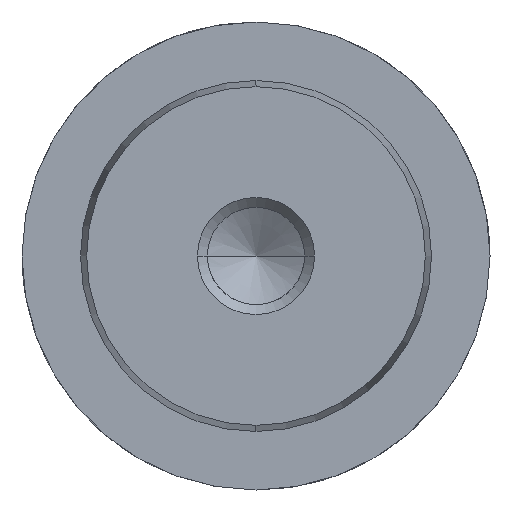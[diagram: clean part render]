
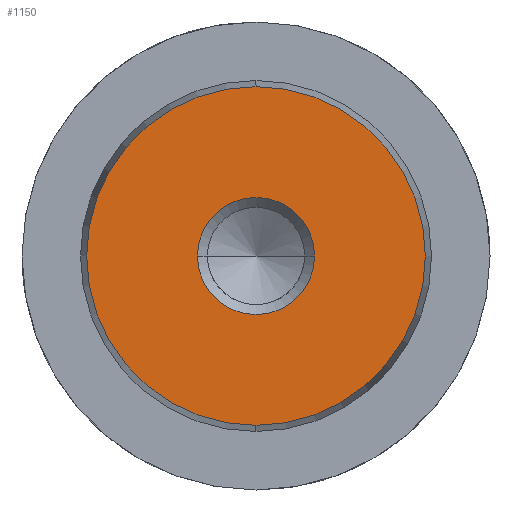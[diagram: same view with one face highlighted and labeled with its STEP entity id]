
A CAD part, left-side view. The second image highlights one B-rep face of the part: STEP entity #1150.
In plain terms, the highlighted planar face has unit normal (-1, 0, 0).
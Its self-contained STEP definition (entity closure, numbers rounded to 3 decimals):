
#1064=CARTESIAN_POINT('Vertex',(0.,0.,-11.578)) ;
#1067=CARTESIAN_POINT('Axis2P3D Location',(0.,0.,0.)) ;
#1071=CARTESIAN_POINT('Vertex',(0.,11.578,0.)) ;
#1074=CARTESIAN_POINT('Axis2P3D Location',(0.,0.,0.)) ;
#1078=CARTESIAN_POINT('Vertex',(0.,0.,11.578)) ;
#1100=CARTESIAN_POINT('Axis2P3D Location',(0.,0.,0.)) ;
#1104=CARTESIAN_POINT('Vertex',(0.,-11.578,0.)) ;
#1107=CARTESIAN_POINT('Axis2P3D Location',(0.,0.,0.)) ;
#1121=CARTESIAN_POINT('Axis2P3D Location',(0.,0.,0.)) ;
#1132=CARTESIAN_POINT('Axis2P3D Location',(0.,0.,0.)) ;
#1136=CARTESIAN_POINT('Vertex',(0.,4.,0.)) ;
#1138=CARTESIAN_POINT('Vertex',(0.,-4.,0.)) ;
#1141=CARTESIAN_POINT('Axis2P3D Location',(0.,0.,0.)) ;
#1068=DIRECTION('Axis2P3D Direction',(1.,0.,-0.)) ;
#1075=DIRECTION('Axis2P3D Direction',(1.,0.,-0.)) ;
#1101=DIRECTION('Axis2P3D Direction',(1.,0.,-0.)) ;
#1108=DIRECTION('Axis2P3D Direction',(1.,0.,-0.)) ;
#1122=DIRECTION('Axis2P3D Direction',(1.,0.,-0.)) ;
#1123=DIRECTION('Axis2P3D XDirection',(-0.,0.,-1.)) ;
#1133=DIRECTION('Axis2P3D Direction',(1.,0.,-0.)) ;
#1142=DIRECTION('Axis2P3D Direction',(1.,0.,-0.)) ;
#1069=AXIS2_PLACEMENT_3D('Circle Axis2P3D',#1067,#1068,$) ;
#1076=AXIS2_PLACEMENT_3D('Circle Axis2P3D',#1074,#1075,$) ;
#1102=AXIS2_PLACEMENT_3D('Circle Axis2P3D',#1100,#1101,$) ;
#1109=AXIS2_PLACEMENT_3D('Circle Axis2P3D',#1107,#1108,$) ;
#1124=AXIS2_PLACEMENT_3D('Plane Axis2P3D',#1121,#1122,#1123) ;
#1134=AXIS2_PLACEMENT_3D('Circle Axis2P3D',#1132,#1133,$) ;
#1143=AXIS2_PLACEMENT_3D('Circle Axis2P3D',#1141,#1142,$) ;
#1127=ORIENTED_EDGE('',*,*,#1073,.F.) ;
#1128=ORIENTED_EDGE('',*,*,#1111,.F.) ;
#1129=ORIENTED_EDGE('',*,*,#1106,.F.) ;
#1130=ORIENTED_EDGE('',*,*,#1080,.F.) ;
#1147=ORIENTED_EDGE('',*,*,#1140,.T.) ;
#1148=ORIENTED_EDGE('',*,*,#1145,.T.) ;
#1149=FACE_BOUND('',#1146,.T.) ;
#1150=ADVANCED_FACE('718-24x250',(#1131,#1149),#1125,.F.) ;
#1070=CIRCLE('generated circle',#1069,11.578) ;
#1077=CIRCLE('generated circle',#1076,11.578) ;
#1103=CIRCLE('generated circle',#1102,11.578) ;
#1110=CIRCLE('generated circle',#1109,11.578) ;
#1135=CIRCLE('generated circle',#1134,4.) ;
#1144=CIRCLE('generated circle',#1143,4.) ;
#1073=EDGE_CURVE('',#1065,#1072,#1070,.T.) ;
#1080=EDGE_CURVE('',#1072,#1079,#1077,.T.) ;
#1106=EDGE_CURVE('',#1079,#1105,#1103,.T.) ;
#1111=EDGE_CURVE('',#1105,#1065,#1110,.T.) ;
#1140=EDGE_CURVE('',#1137,#1139,#1135,.T.) ;
#1145=EDGE_CURVE('',#1139,#1137,#1144,.T.) ;
#1126=EDGE_LOOP('',(#1127,#1128,#1129,#1130)) ;
#1146=EDGE_LOOP('',(#1147,#1148)) ;
#1131=FACE_OUTER_BOUND('',#1126,.T.) ;
#1125=PLANE('Plane',#1124) ;
#1065=VERTEX_POINT('',#1064) ;
#1072=VERTEX_POINT('',#1071) ;
#1079=VERTEX_POINT('',#1078) ;
#1105=VERTEX_POINT('',#1104) ;
#1137=VERTEX_POINT('',#1136) ;
#1139=VERTEX_POINT('',#1138) ;
